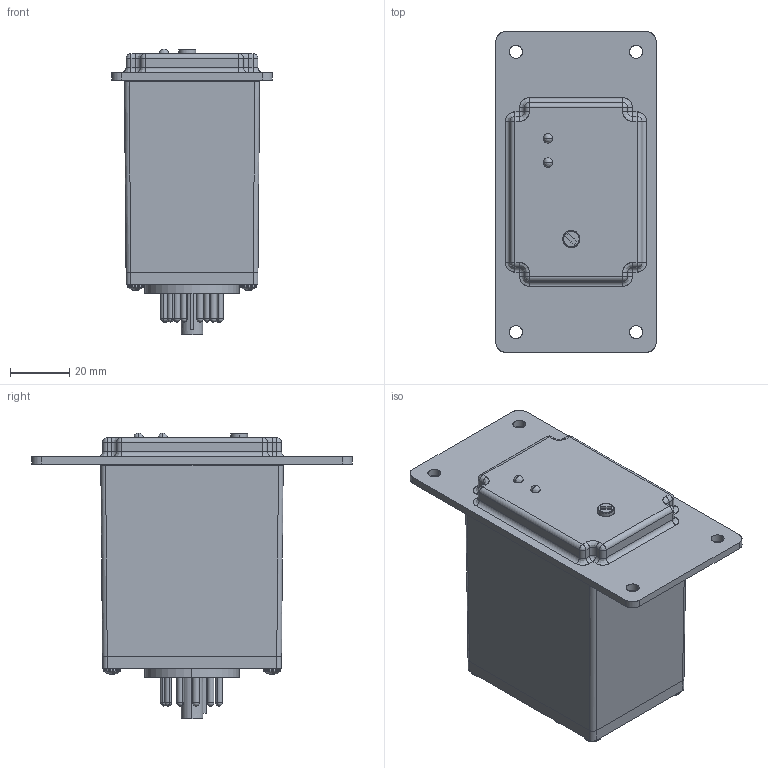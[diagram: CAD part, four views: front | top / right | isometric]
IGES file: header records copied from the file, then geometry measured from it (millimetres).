
Start section: SolidWorks IGES file using analytic representation for surfaces
Global section: file name: D:\Modeling Work\Macromatic\2019\Phase 2\SFF\SFF Dual.IGS; native system: SolidWorks 2019; preprocessor: SolidWorks 2019; author: mdahl; date: 190702.192116; units: millimetre
Bounding box: 53.98 x 107.95 x 96.33 mm (x, y, z)
Surface area: 35759.6 mm2 (no closed solid volume)
Topology: 0 solids, 0 shells, 809 faces, 10585 edges, 10515 vertices
Faces by surface type: bspline 429, revolution 380
